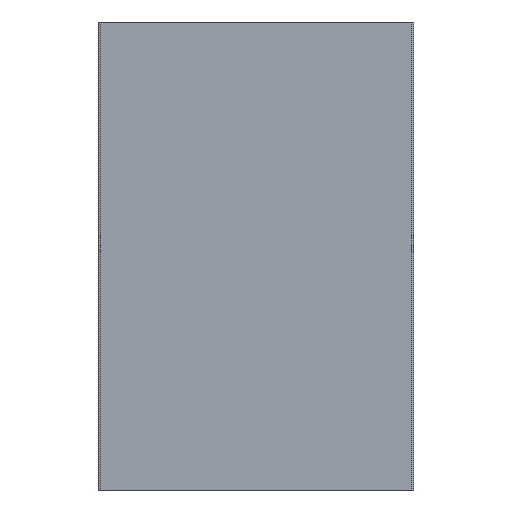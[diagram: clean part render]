
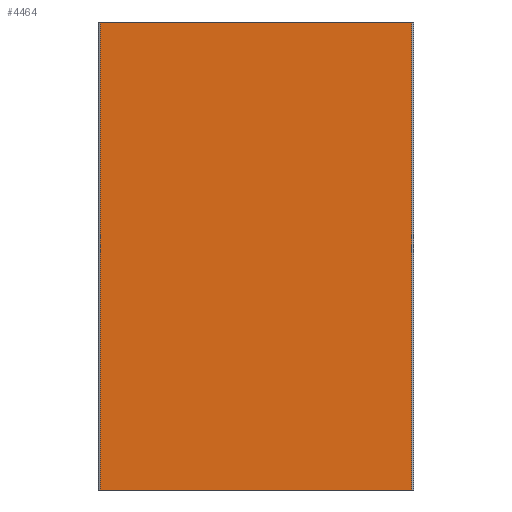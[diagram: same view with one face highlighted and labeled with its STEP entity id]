
A CAD part, left-side view. The second image highlights one B-rep face of the part: STEP entity #4464.
In plain terms, the highlighted planar face has unit normal (-1, 0, 0).
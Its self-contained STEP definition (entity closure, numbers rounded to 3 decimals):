
#194 = VECTOR ( 'NONE', #1563, 1000. ) ;
#533 = EDGE_CURVE ( 'NONE', #1087, #5643, #2578, .T. ) ;
#561 = LINE ( 'NONE', #5571, #194 ) ;
#764 = CARTESIAN_POINT ( 'NONE',  ( 61.276, 142.69, 100. ) ) ;
#879 = CARTESIAN_POINT ( 'NONE',  ( 61.276, 209.19, 0. ) ) ;
#916 = PLANE ( 'NONE',  #4853 ) ;
#1087 = VERTEX_POINT ( 'NONE', #4263 ) ;
#1276 = LINE ( 'NONE', #6169, #2635 ) ;
#1491 = DIRECTION ( 'NONE',  ( 0., 0., -1. ) ) ;
#1563 = DIRECTION ( 'NONE',  ( 0., 0., -1. ) ) ;
#1965 = CARTESIAN_POINT ( 'NONE',  ( 61.276, 209.19, 100. ) ) ;
#2171 = DIRECTION ( 'NONE',  ( 0., -1., 0. ) ) ;
#2578 = LINE ( 'NONE', #1965, #3907 ) ;
#2635 = VECTOR ( 'NONE', #2171, 1000. ) ;
#3192 = CARTESIAN_POINT ( 'NONE',  ( 61.276, 209.19, 100. ) ) ;
#3508 = EDGE_CURVE ( 'NONE', #6722, #5922, #1276, .T. ) ;
#3818 = EDGE_CURVE ( 'NONE', #5643, #5922, #6934, .T. ) ;
#3907 = VECTOR ( 'NONE', #5972, 1000. ) ;
#4138 = ORIENTED_EDGE ( 'NONE', *, *, #3508, .T. ) ;
#4205 = DIRECTION ( 'NONE',  ( 0., 0., -1. ) ) ;
#4263 = CARTESIAN_POINT ( 'NONE',  ( 61.276, 209.19, 100. ) ) ;
#4464 = ADVANCED_FACE ( 'NONE', ( #5397 ), #916, .F. ) ;
#4550 = CARTESIAN_POINT ( 'NONE',  ( 61.276, 142.69, 0. ) ) ;
#4747 = ORIENTED_EDGE ( 'NONE', *, *, #533, .F. ) ;
#4806 = EDGE_LOOP ( 'NONE', ( #4138, #5069, #4747, #5707 ) ) ;
#4853 = AXIS2_PLACEMENT_3D ( 'NONE', #3192, #4942, #1491 ) ;
#4942 = DIRECTION ( 'NONE',  ( 1., 0., 0. ) ) ;
#5044 = VECTOR ( 'NONE', #4205, 1000. ) ;
#5069 = ORIENTED_EDGE ( 'NONE', *, *, #3818, .F. ) ;
#5397 = FACE_OUTER_BOUND ( 'NONE', #4806, .T. ) ;
#5571 = CARTESIAN_POINT ( 'NONE',  ( 61.276, 209.19, 100. ) ) ;
#5643 = VERTEX_POINT ( 'NONE', #6471 ) ;
#5707 = ORIENTED_EDGE ( 'NONE', *, *, #7148, .T. ) ;
#5922 = VERTEX_POINT ( 'NONE', #4550 ) ;
#5972 = DIRECTION ( 'NONE',  ( 0., -1., 0. ) ) ;
#6169 = CARTESIAN_POINT ( 'NONE',  ( 61.276, 209.19, 0. ) ) ;
#6471 = CARTESIAN_POINT ( 'NONE',  ( 61.276, 142.69, 100. ) ) ;
#6722 = VERTEX_POINT ( 'NONE', #879 ) ;
#6934 = LINE ( 'NONE', #764, #5044 ) ;
#7148 = EDGE_CURVE ( 'NONE', #1087, #6722, #561, .T. ) ;
